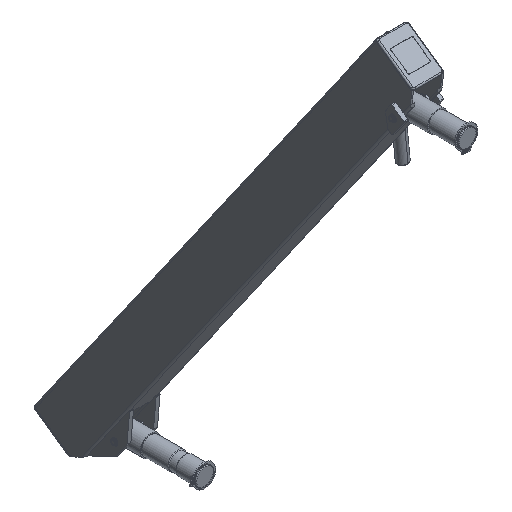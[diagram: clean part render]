
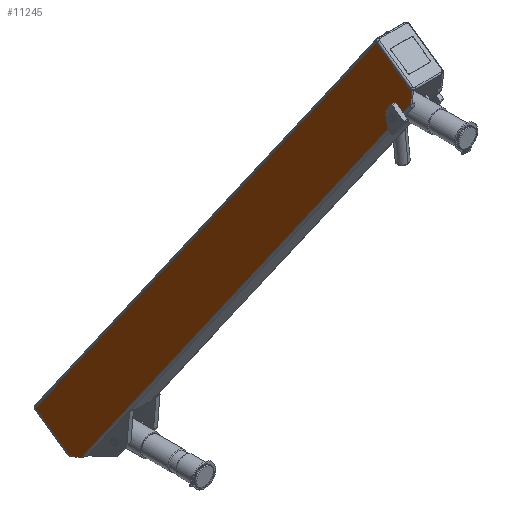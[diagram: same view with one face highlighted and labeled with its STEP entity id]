
A CAD part, isometric view. The second image highlights one B-rep face of the part: STEP entity #11245.
In plain terms, the highlighted planar face has unit normal (-1, 0, 0).
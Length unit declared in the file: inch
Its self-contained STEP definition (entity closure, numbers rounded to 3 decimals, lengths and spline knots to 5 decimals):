
#666 = VERTEX_POINT ( 'NONE', #16009 ) ;
#1388 = AXIS2_PLACEMENT_3D ( 'NONE', #26258, #46572, #51151 ) ;
#1670 = CARTESIAN_POINT ( 'NONE',  ( -1.5, -2.4, 27.52369 ) ) ;
#2297 = EDGE_CURVE ( 'NONE', #39440, #26660, #19557, .T. ) ;
#2415 = CARTESIAN_POINT ( 'NONE',  ( -1.5, -0.1, 28. ) ) ;
#3857 = EDGE_CURVE ( 'NONE', #19583, #39440, #9075, .T. ) ;
#5618 = CARTESIAN_POINT ( 'NONE',  ( -1.5, -2.125, 0. ) ) ;
#6594 = CARTESIAN_POINT ( 'NONE',  ( -1.5, -2.4, 28. ) ) ;
#7065 = DIRECTION ( 'NONE',  ( 0., -1., 0. ) ) ;
#7276 = LINE ( 'NONE', #48943, #45838 ) ;
#9075 = LINE ( 'NONE', #29131, #14009 ) ;
#9793 = LINE ( 'NONE', #14402, #21637 ) ;
#9844 = DIRECTION ( 'NONE',  ( 0., 0., -1. ) ) ;
#10456 = VERTEX_POINT ( 'NONE', #38541 ) ;
#11245 = ADVANCED_FACE ( 'NONE', ( #48965 ), #32195, .T. ) ;
#12269 = CARTESIAN_POINT ( 'NONE',  ( -1.5, -2.37942, 26.375 ) ) ;
#12271 = CARTESIAN_POINT ( 'NONE',  ( -1.5, -2.4, 26.375 ) ) ;
#13206 = CIRCLE ( 'NONE', #39987, 0.14062 ) ;
#14009 = VECTOR ( 'NONE', #25597, 39.37008 ) ;
#14402 = CARTESIAN_POINT ( 'NONE',  ( -1.5, -2.4, 28. ) ) ;
#14497 = CARTESIAN_POINT ( 'NONE',  ( -1.5, -2.5, 27.35048 ) ) ;
#15551 = DIRECTION ( 'NONE',  ( 0., 0., -1. ) ) ;
#15839 = CARTESIAN_POINT ( 'NONE',  ( -1.5, -0.1, 28. ) ) ;
#16009 = CARTESIAN_POINT ( 'NONE',  ( -1.5, -2.125, 28. ) ) ;
#16157 = CARTESIAN_POINT ( 'NONE',  ( -1.5, -0.1, 0. ) ) ;
#16465 = VECTOR ( 'NONE', #7065, 39.37008 ) ;
#17123 = LINE ( 'NONE', #30112, #26856 ) ;
#17272 = ORIENTED_EDGE ( 'NONE', *, *, #2297, .T. ) ;
#17292 = EDGE_CURVE ( 'NONE', #666, #23127, #7276, .T. ) ;
#17700 = ORIENTED_EDGE ( 'NONE', *, *, #28986, .T. ) ;
#19557 = CIRCLE ( 'NONE', #1388, 0.14062 ) ;
#19583 = VERTEX_POINT ( 'NONE', #12271 ) ;
#20995 = ORIENTED_EDGE ( 'NONE', *, *, #26486, .F. ) ;
#21599 = VECTOR ( 'NONE', #49452, 39.37008 ) ;
#21637 = VECTOR ( 'NONE', #39041, 39.37008 ) ;
#21918 = VECTOR ( 'NONE', #47020, 39.37008 ) ;
#22098 = LINE ( 'NONE', #14497, #21918 ) ;
#22581 = CARTESIAN_POINT ( 'NONE',  ( -1.5, -0.1, 0. ) ) ;
#23002 = DIRECTION ( 'NONE',  ( -1., 0., 0. ) ) ;
#23127 = VERTEX_POINT ( 'NONE', #28902 ) ;
#24318 = DIRECTION ( 'NONE',  ( 0., 1., 0. ) ) ;
#24668 = ORIENTED_EDGE ( 'NONE', *, *, #17292, .T. ) ;
#24706 = EDGE_CURVE ( 'NONE', #26660, #40101, #13206, .T. ) ;
#25597 = DIRECTION ( 'NONE',  ( 0., 1., 0. ) ) ;
#25667 = EDGE_LOOP ( 'NONE', ( #17700, #24668, #48359, #29080, #43565, #44753, #53451, #17272, #46303, #32499, #20995 ) ) ;
#25767 = DIRECTION ( 'NONE',  ( 1., 0., 0. ) ) ;
#26258 = CARTESIAN_POINT ( 'NONE',  ( -1.5, -2.315, 26.5 ) ) ;
#26486 = EDGE_CURVE ( 'NONE', #38511, #10456, #27173, .T. ) ;
#26534 = VERTEX_POINT ( 'NONE', #22581 ) ;
#26660 = VERTEX_POINT ( 'NONE', #31768 ) ;
#26714 = EDGE_CURVE ( 'NONE', #39756, #37093, #17123, .T. ) ;
#26856 = VECTOR ( 'NONE', #41470, 39.37008 ) ;
#27173 = LINE ( 'NONE', #6594, #38114 ) ;
#27352 = EDGE_CURVE ( 'NONE', #40101, #10456, #52538, .T. ) ;
#28124 = DIRECTION ( 'NONE',  ( 0., -1., 0. ) ) ;
#28278 = LINE ( 'NONE', #15839, #45832 ) ;
#28670 = EDGE_CURVE ( 'NONE', #39756, #26534, #35921, .T. ) ;
#28902 = CARTESIAN_POINT ( 'NONE',  ( -1.5, -0.1, 28. ) ) ;
#28986 = EDGE_CURVE ( 'NONE', #38511, #666, #22098, .T. ) ;
#29080 = ORIENTED_EDGE ( 'NONE', *, *, #28670, .F. ) ;
#29131 = CARTESIAN_POINT ( 'NONE',  ( -1.5, -2.5, 26.375 ) ) ;
#29153 = EDGE_CURVE ( 'NONE', #23127, #26534, #28278, .T. ) ;
#29664 = CARTESIAN_POINT ( 'NONE',  ( -1.5, -2.4, 0.47631 ) ) ;
#30112 = CARTESIAN_POINT ( 'NONE',  ( -1.5, -2.5, 0.64952 ) ) ;
#30317 = AXIS2_PLACEMENT_3D ( 'NONE', #2415, #23002, #28124 ) ;
#31768 = CARTESIAN_POINT ( 'NONE',  ( -1.5, -2.17438, 26.5 ) ) ;
#32195 = PLANE ( 'NONE',  #30317 ) ;
#32499 = ORIENTED_EDGE ( 'NONE', *, *, #27352, .T. ) ;
#32860 = EDGE_CURVE ( 'NONE', #19583, #37093, #9793, .T. ) ;
#35921 = LINE ( 'NONE', #16157, #21599 ) ;
#37093 = VERTEX_POINT ( 'NONE', #29664 ) ;
#38114 = VECTOR ( 'NONE', #9844, 39.37008 ) ;
#38494 = DIRECTION ( 'NONE',  ( 0., 1., 0. ) ) ;
#38511 = VERTEX_POINT ( 'NONE', #1670 ) ;
#38541 = CARTESIAN_POINT ( 'NONE',  ( -1.5, -2.4, 26.625 ) ) ;
#39041 = DIRECTION ( 'NONE',  ( 0., 0., -1. ) ) ;
#39440 = VERTEX_POINT ( 'NONE', #12269 ) ;
#39756 = VERTEX_POINT ( 'NONE', #5618 ) ;
#39987 = AXIS2_PLACEMENT_3D ( 'NONE', #46353, #25767, #38494 ) ;
#40101 = VERTEX_POINT ( 'NONE', #44276 ) ;
#41470 = DIRECTION ( 'NONE',  ( 0., -0.5, 0.866 ) ) ;
#43565 = ORIENTED_EDGE ( 'NONE', *, *, #26714, .T. ) ;
#44276 = CARTESIAN_POINT ( 'NONE',  ( -1.5, -2.37942, 26.625 ) ) ;
#44753 = ORIENTED_EDGE ( 'NONE', *, *, #32860, .F. ) ;
#44930 = CARTESIAN_POINT ( 'NONE',  ( -1.5, -2.5, 26.625 ) ) ;
#45832 = VECTOR ( 'NONE', #15551, 39.37008 ) ;
#45838 = VECTOR ( 'NONE', #24318, 39.37008 ) ;
#46303 = ORIENTED_EDGE ( 'NONE', *, *, #24706, .T. ) ;
#46353 = CARTESIAN_POINT ( 'NONE',  ( -1.5, -2.315, 26.5 ) ) ;
#46572 = DIRECTION ( 'NONE',  ( 1., 0., 0. ) ) ;
#47020 = DIRECTION ( 'NONE',  ( 0., 0.5, 0.866 ) ) ;
#48359 = ORIENTED_EDGE ( 'NONE', *, *, #29153, .T. ) ;
#48943 = CARTESIAN_POINT ( 'NONE',  ( -1.5, -0.1, 28. ) ) ;
#48965 = FACE_OUTER_BOUND ( 'NONE', #25667, .T. ) ;
#49452 = DIRECTION ( 'NONE',  ( 0., 1., 0. ) ) ;
#51151 = DIRECTION ( 'NONE',  ( 0., 1., 0. ) ) ;
#52538 = LINE ( 'NONE', #44930, #16465 ) ;
#53451 = ORIENTED_EDGE ( 'NONE', *, *, #3857, .T. ) ;
